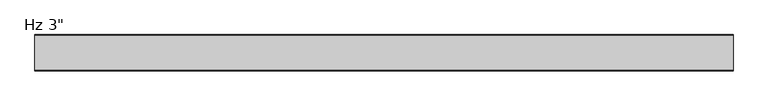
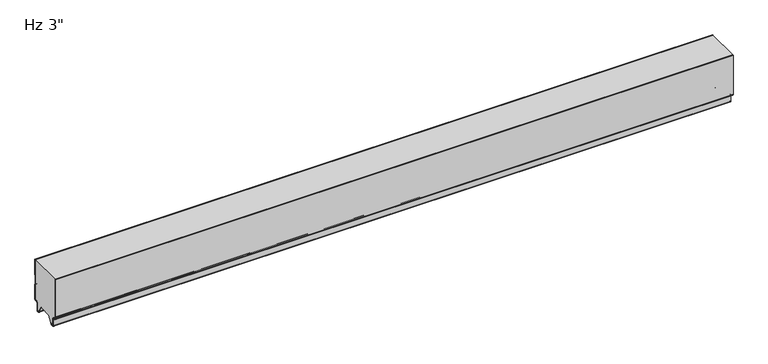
"""IFC4 building model written with IfcOpenShell, lengths in millimetres: plate geometry."""

from ifc_helpers import new_model, si_unit, frame, origin, place, context, project, spatial, polyline, circle_curve, source, transform, mapped, element, save
from ifc_brep_helpers import plane_surface, cylinder_surface, revolved_surface, advanced_brep


def plate_41ea3fa6(model_context):
    return source(origin(), model_context, "Body", "AdvancedBrep", [
        advanced_brep(
        [(-730.0, -1.0, 59.9218553), (-730.0, -1.0, 94.95), (-730.0, 0.0, 94.95), (-730.0, 0.0, 59.479416), (-730.0, -1.1911595, 58.4068912), (-730.0, -1.1911595, 39.5087751), (-730.0, 0.0, 38.4362503), (-730.0, 0.0, 5.8272193), (-730.0, -2.9772904, 2.8499526), (-730.0, -5.2691742, 2.8499526), (-730.0, -8.2464427, -0.1273159), (-730.0, -8.2464427, -15.7237419), (-730.0, -9.8343193, -17.3116185), (-730.0, -12.905868, -17.3116185), (-730.0, -14.4937445, -15.7237419), (-730.0, -14.4937445, -13.3687064), (-730.0, -13.4937445, -13.3687064), (-730.0, -13.4937445, -15.7237419), (-730.0, -12.905868, -16.3116185), (-730.0, -9.8343193, -16.3116185), (-730.0, -9.2464427, -15.7237419), (-730.0, -9.2464427, -0.1273159), (-730.0, -5.2691742, 3.8499526), (-730.0, -2.9772904, 3.8499526), (-730.0, -1.0000218, 5.82722), (-730.0, -1.0, 37.993811), (-730.0, -2.1911595, 39.0663358), (-730.0, -2.1911595, 58.8493305), (730.0, 0.0, 59.479416), (730.0, 0.0, 94.95), (730.0, -1.0, 94.95), (730.0, -1.0, 59.9218553), (730.0, -2.1911595, 58.8493305), (730.0, -2.1911595, 39.0663358), (730.0, -1.0, 37.993811), (730.0, -1.0, 5.82722), (730.0, -2.9772904, 3.8499526), (730.0, -5.2691742, 3.8499526), (730.0, -9.2464427, -0.1273159), (730.0, -9.2464427, -15.7237419), (730.0, -9.8343193, -16.3116185), (730.0, -12.905868, -16.3116185), (730.0, -13.4937445, -15.7237419), (730.0, -13.4937445, -13.3687064), (730.0, -14.4937445, -13.3687064), (730.0, -14.4937445, -15.7237419), (730.0, -12.905868, -17.3116185), (730.0, -9.8343193, -17.3116185), (730.0, -8.2464427, -15.7237419), (730.0, -8.2464427, -0.1273159), (730.0, -5.2691742, 2.8499526), (730.0, -2.9772904, 2.8499526), (730.0, -2.18e-05, 5.8272193), (730.0, 0.0, 38.4362503), (730.0, -1.1911595, 39.5087751), (730.0, -1.1911595, 58.4068912)],
        [
            (0, 1),
            (1, 2),
            (2, 3),
            (3, 4),
            (4, 5),
            (5, 6),
            (6, 7),
            (7, 8, circle_curve(frame((-730.0, -2.9772904, 5.8272211), z_axis=(-1.0, 0.0, 0.0), x_axis=(0.0, 1.0, 0.0)), 2.9772685)),
            (8, 9),
            (9, 10, circle_curve(frame((-730.0, -5.2691742, -0.1273159), z_axis=(1.0, 0.0, 0.0), x_axis=(0.0, 1.0, 0.0)), 2.9772685)),
            (10, 11),
            (11, 12, circle_curve(frame((-730.0, -9.8343193, -15.7237419), z_axis=(-1.0, 0.0, 0.0), x_axis=(0.0, 1.0, 0.0)), 1.5878765)),
            (12, 13),
            (13, 14, circle_curve(frame((-730.0, -12.905868, -15.7237419), z_axis=(-1.0, 0.0, 0.0), x_axis=(0.0, 1.0, 0.0)), 1.5878765)),
            (14, 15),
            (15, 16),
            (16, 17),
            (17, 18, circle_curve(frame((-730.0, -12.905868, -15.7237419), z_axis=(1.0, 0.0, 0.0), x_axis=(0.0, 1.0, 0.0)), 0.5878765)),
            (18, 19),
            (19, 20, circle_curve(frame((-730.0, -9.8343193, -15.7237419), z_axis=(1.0, 0.0, 0.0), x_axis=(0.0, 1.0, 0.0)), 0.5878765)),
            (20, 21),
            (21, 22, circle_curve(frame((-730.0, -5.2691742, -0.1273159), z_axis=(-1.0, 0.0, 0.0), x_axis=(0.0, 1.0, 0.0)), 3.9772685)),
            (22, 23),
            (23, 24, circle_curve(frame((-730.0, -2.9772904, 5.8272212), z_axis=(1.0, 0.0, 0.0), x_axis=(0.0, 1.0, 0.0)), 1.9772685)),
            (24, 25),
            (25, 26),
            (26, 27),
            (27, 0),
            (28, 29),
            (29, 30),
            (30, 31),
            (31, 32),
            (32, 33),
            (33, 34),
            (34, 35),
            (35, 36, circle_curve(frame((730.0, -2.9772904, 5.8272212), z_axis=(-1.0, 0.0, 0.0), x_axis=(0.0, 1.0, 0.0)), 1.9772685)),
            (36, 37),
            (37, 38, circle_curve(frame((730.0, -5.2691742, -0.1273159), z_axis=(1.0, 0.0, 0.0), x_axis=(0.0, 1.0, 0.0)), 3.9772685)),
            (38, 39),
            (39, 40, circle_curve(frame((730.0, -9.8343193, -15.7237419), z_axis=(-1.0, 0.0, 0.0), x_axis=(0.0, 1.0, 0.0)), 0.5878765)),
            (40, 41),
            (41, 42, circle_curve(frame((730.0, -12.905868, -15.7237419), z_axis=(-1.0, 0.0, 0.0), x_axis=(0.0, 1.0, 0.0)), 0.5878765)),
            (42, 43),
            (43, 44),
            (44, 45),
            (45, 46, circle_curve(frame((730.0, -12.905868, -15.7237419), z_axis=(1.0, 0.0, 0.0), x_axis=(0.0, 1.0, 0.0)), 1.5878765)),
            (46, 47),
            (47, 48, circle_curve(frame((730.0, -9.8343193, -15.7237419), z_axis=(1.0, 0.0, 0.0), x_axis=(0.0, 1.0, 0.0)), 1.5878765)),
            (48, 49),
            (49, 50, circle_curve(frame((730.0, -5.2691742, -0.1273159), z_axis=(-1.0, 0.0, 0.0), x_axis=(0.0, 1.0, 0.0)), 2.9772685)),
            (50, 51),
            (51, 52, circle_curve(frame((730.0, -2.9772904, 5.8272211), z_axis=(1.0, 0.0, 0.0), x_axis=(0.0, 1.0, 0.0)), 2.9772685)),
            (52, 53),
            (53, 54),
            (54, 55),
            (55, 28),
            (30, 1),
            (0, 31),
            (27, 32),
            (26, 33),
            (25, 34),
            (24, 35),
            (23, 36),
            (22, 37),
            (21, 38),
            (20, 39),
            (19, 40),
            (18, 41),
            (17, 42),
            (16, 43),
            (15, 44),
            (14, 45),
            (13, 46),
            (12, 47),
            (11, 48),
            (10, 49),
            (9, 50),
            (8, 51),
            (7, 52),
            (6, 53),
            (5, 54),
            (4, 55),
            (3, 28),
            (2, 29),
        ],
        [
            plane_surface(frame((-730.0, 0.0, 576.2625), z_axis=(-1.0, 0.0, 0.0), x_axis=(0.0, 1.0, 0.0))),
            plane_surface(frame((730.0, 0.0, 576.2625), z_axis=(1.0, 0.0, 0.0), x_axis=(0.0, 1.0, 0.0))),
            plane_surface(frame((-730.0, -1.0, 113.6164312), z_axis=(0.0, -1.0, 0.0), x_axis=(1.0, 0.0, 0.0))),
            plane_surface(frame((-730.0, -1.0, 59.9218553), z_axis=(0.0, -0.6691306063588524, 0.7431448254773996), x_axis=(1.0, 0.0, 0.0))),
            plane_surface(frame((-730.0, -2.1911595, 58.8493305), z_axis=(0.0, -1.0, 0.0), x_axis=(1.0, 0.0, 0.0))),
            plane_surface(frame((-730.0, -2.1911595, 39.0663358), z_axis=(0.0, -0.6691306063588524, -0.7431448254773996), x_axis=(1.0, 0.0, 0.0))),
            plane_surface(frame((-730.0, -1.0, 37.993811), z_axis=(0.0, -1.0, 0.0), x_axis=(1.0, 0.0, 0.0))),
            revolved_surface(polyline([(730.0, -1.0000218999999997, 5.8272212), (-730.0, -1.0000218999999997, 5.8272212)]), (-730.0, -2.9772904, 5.8272212), (1.0, 0.0, 0.0)),
            plane_surface(frame((-730.0, -2.9772904, 3.8499526), z_axis=(0.0, 0.0, 1.0), x_axis=(1.0, 0.0, 0.0))),
            cylinder_surface(frame((-730.0, -5.2691742, -0.1273159), z_axis=(-1.0, 0.0, 0.0), x_axis=(0.0, 1.0, 0.0)), 3.9772685),
            plane_surface(frame((-730.0, -9.2464427, -0.1273159), z_axis=(0.0, -1.0, 0.0), x_axis=(1.0, 0.0, 0.0))),
            revolved_surface(polyline([(730.0, -9.2464428, -15.7237419), (-730.0, -9.2464428, -15.7237419)]), (-730.0, -9.8343193, -15.7237419), (1.0, 0.0, 0.0)),
            plane_surface(frame((-730.0, -9.8343193, -16.3116185), z_axis=(0.0, 0.0, 1.0), x_axis=(1.0, 0.0, 0.0))),
            revolved_surface(polyline([(730.0, -12.3179915, -15.7237419), (-730.0, -12.3179915, -15.7237419)]), (-730.0, -12.905868, -15.7237419), (1.0, 0.0, 0.0)),
            plane_surface(frame((-730.0, -13.4937445, -15.7237419), z_axis=(0.0, 1.0, 0.0), x_axis=(1.0, 0.0, 0.0))),
            plane_surface(frame((-730.0, -13.4937445, -13.3687064), z_axis=(0.0, 0.0, 1.0), x_axis=(1.0, 0.0, 0.0))),
            plane_surface(frame((-730.0, -14.4937445, -13.3687064), z_axis=(0.0, -1.0, 0.0), x_axis=(1.0, 0.0, 0.0))),
            cylinder_surface(frame((-730.0, -12.905868, -15.7237419), z_axis=(-1.0, 0.0, 0.0), x_axis=(0.0, 1.0, 0.0)), 1.5878765),
            plane_surface(frame((-730.0, -12.905868, -17.3116185), z_axis=(0.0, 0.0, -1.0), x_axis=(1.0, 0.0, 0.0))),
            cylinder_surface(frame((-730.0, -9.8343193, -15.7237419), z_axis=(-1.0, 0.0, 0.0), x_axis=(0.0, 1.0, 0.0)), 1.5878765),
            plane_surface(frame((-730.0, -8.2464427, -15.7237419), z_axis=(0.0, 1.0, 0.0), x_axis=(1.0, 0.0, 0.0))),
            revolved_surface(polyline([(730.0, -2.2919057, -0.1273159), (-730.0, -2.2919057, -0.1273159)]), (-730.0, -5.2691742, -0.1273159), (1.0, 0.0, 0.0)),
            plane_surface(frame((-730.0, -5.2691742, 2.8499526), z_axis=(0.0, 0.0, -1.0), x_axis=(1.0, 0.0, 0.0))),
            cylinder_surface(frame((-730.0, -2.9772904, 5.8272211), z_axis=(-1.0, 0.0, 0.0), x_axis=(0.0, 1.0, 0.0)), 2.9772685),
            plane_surface(frame((-730.0, 0.0, 5.8272193), z_axis=(0.0, 1.0, 0.0), x_axis=(1.0, 0.0, 0.0))),
            plane_surface(frame((-730.0, 0.0, 38.4362503), z_axis=(0.0, 0.6691306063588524, 0.7431448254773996), x_axis=(1.0, 0.0, 0.0))),
            plane_surface(frame((-730.0, -1.1911595, 39.5087751), z_axis=(0.0, 1.0, 0.0), x_axis=(1.0, 0.0, 0.0))),
            plane_surface(frame((-730.0, -1.1911595, 58.4068912), z_axis=(0.0, 0.6691306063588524, -0.7431448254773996), x_axis=(1.0, 0.0, 0.0))),
            plane_surface(frame((-730.0, 0.0, 59.479416), z_axis=(0.0, 1.0, 0.0), x_axis=(1.0, 0.0, 0.0))),
            plane_surface(frame((730.0, 10.0, 94.95), z_axis=(0.0, 0.0, 1.0), x_axis=(-1.0, 0.0, 0.0))),
        ],
        [
            (0, [[1, 2, 3, 4, 5, 6, 7, 8, 9, 10, 11, 12, 13, 14, 15, 16, 17, 18, 19, 20, 21, 22, 23, 24, 25, 26, 27, 28]]),
            (1, [[29, 30, 31, 32, 33, 34, 35, 36, 37, 38, 39, 40, 41, 42, 43, 44, 45, 46, 47, 48, 49, 50, 51, 52, 53, 54, 55, 56]]),
            (2, [[-31, 57, -1, 58]]),
            (3, [[59, -32, -58, -28]]),
            (4, [[60, -33, -59, -27]]),
            (5, [[61, -34, -60, -26]]),
            (6, [[62, -35, -61, -25]]),
            (7, [[63, -36, -62, -24]]),
            (8, [[64, -37, -63, -23]]),
            (9, [[65, -38, -64, -22]]),
            (10, [[66, -39, -65, -21]]),
            (11, [[67, -40, -66, -20]]),
            (12, [[68, -41, -67, -19]]),
            (13, [[69, -42, -68, -18]]),
            (14, [[70, -43, -69, -17]]),
            (15, [[71, -44, -70, -16]]),
            (16, [[72, -45, -71, -15]]),
            (17, [[73, -46, -72, -14]]),
            (18, [[74, -47, -73, -13]]),
            (19, [[75, -48, -74, -12]]),
            (20, [[76, -49, -75, -11]]),
            (21, [[77, -50, -76, -10]]),
            (22, [[78, -51, -77, -9]]),
            (23, [[79, -52, -78, -8]]),
            (24, [[80, -53, -79, -7]]),
            (25, [[81, -54, -80, -6]]),
            (26, [[82, -55, -81, -5]]),
            (27, [[83, -56, -82, -4]]),
            (28, [[-3, 84, -29, -83]]),
            (29, [[-57, -30, -84, -2]]),
        ],
    ),
        advanced_brep(
        [(-730.0, -73.2223811, 3.8501063), (-730.0, -70.9308685, 3.8501063), (-730.0, -66.9535232, -0.1272391), (-730.0, -66.9535232, -15.7237514), (-730.0, -66.365666, -16.3116086), (-730.0, -63.2941346, -16.3116086), (-730.0, -62.7062635, -15.7237374), (-730.0, -62.7062635, -13.3687064), (-730.0, -61.7062599, -13.3687064), (-730.0, -61.7062599, -15.7237419), (-730.0, -63.2941364, -17.3116185), (-730.0, -66.3656851, -17.3116185), (-730.0, -67.9535616, -15.7237419), (-730.0, -67.9535616, -0.1273159), (-730.0, -70.9308302, 2.8499526), (-730.0, -73.222714, 2.8499526), (-730.0, -76.1999825, 5.8272211), (-730.0, -76.2, 94.95), (-730.0, -75.1992912, 94.95), (-730.0, -75.1992912, 5.8270163), (730.0, -73.2223811, 3.8501063), (730.0, -75.1992912, 5.8270163), (730.0, -75.1992912, 94.95), (730.0, -76.2, 94.95), (730.0, -76.2, 5.8272211), (730.0, -73.222714, 2.8499526), (730.0, -70.9308302, 2.8499526), (730.0, -67.9535616, -0.1273159), (730.0, -67.9535616, -15.7237419), (730.0, -66.3656851, -17.3116185), (730.0, -63.2941364, -17.3116185), (730.0, -61.7062599, -15.7237419), (730.0, -61.7062599, -13.3687064), (730.0, -62.7062635, -13.3687064), (730.0, -62.7062635, -15.7237374), (730.0, -63.2941346, -16.3116086), (730.0, -66.365666, -16.3116086), (730.0, -66.9535232, -15.7237514), (730.0, -66.9535232, -0.1272391), (730.0, -70.9308685, 3.8501063)],
        [
            (0, 1),
            (1, 2, circle_curve(frame((-730.0, -70.9308685, -0.1272391), z_axis=(-1.0, 0.0, 0.0), x_axis=(0.0, 0.0, -1.0)), 3.9773454)),
            (2, 3),
            (3, 4, circle_curve(frame((-730.0, -66.365666, -15.7237514), z_axis=(1.0, 0.0, 0.0), x_axis=(0.0, 0.0, -1.0)), 0.5878572)),
            (4, 5),
            (5, 6, circle_curve(frame((-730.0, -63.2941346, -15.7237374), z_axis=(1.0, 0.0, 0.0), x_axis=(0.0, 0.0, -1.0)), 0.5878711)),
            (6, 7),
            (7, 8),
            (8, 9),
            (9, 10, circle_curve(frame((-730.0, -63.2941364, -15.7237419), z_axis=(-1.0, 0.0, 0.0), x_axis=(0.0, 0.0, -1.0)), 1.5878765)),
            (10, 11),
            (11, 12, circle_curve(frame((-730.0, -66.3656851, -15.7237419), z_axis=(-1.0, 0.0, 0.0), x_axis=(0.0, 0.0, -1.0)), 1.5878765)),
            (12, 13),
            (13, 14, circle_curve(frame((-730.0, -70.9308302, -0.1273159), z_axis=(1.0, 0.0, 0.0), x_axis=(0.0, 0.0, -1.0)), 2.9772685)),
            (14, 15),
            (15, 16, circle_curve(frame((-730.0, -73.222714, 5.8272211), z_axis=(-1.0, 0.0, 0.0), x_axis=(0.0, 0.0, -1.0)), 2.9772685)),
            (16, 17),
            (17, 18),
            (18, 19),
            (19, 0, circle_curve(frame((-730.0, -73.2223811, 5.8270163), z_axis=(1.0, 0.0, 0.0), x_axis=(0.0, 0.0, -1.0)), 1.9769101)),
            (20, 21, circle_curve(frame((730.0, -73.2223811, 5.8270163), z_axis=(-1.0, 0.0, 0.0), x_axis=(0.0, 0.0, -1.0)), 1.9769101)),
            (21, 22),
            (22, 23),
            (23, 24),
            (24, 25, circle_curve(frame((730.0, -73.222714, 5.8272211), z_axis=(1.0, 0.0, 0.0), x_axis=(0.0, 0.0, -1.0)), 2.9772685)),
            (25, 26),
            (26, 27, circle_curve(frame((730.0, -70.9308302, -0.1273159), z_axis=(-1.0, 0.0, 0.0), x_axis=(0.0, 0.0, -1.0)), 2.9772685)),
            (27, 28),
            (28, 29, circle_curve(frame((730.0, -66.3656851, -15.7237419), z_axis=(1.0, 0.0, 0.0), x_axis=(0.0, 0.0, -1.0)), 1.5878765)),
            (29, 30),
            (30, 31, circle_curve(frame((730.0, -63.2941364, -15.7237419), z_axis=(1.0, 0.0, 0.0), x_axis=(0.0, 0.0, -1.0)), 1.5878765)),
            (31, 32),
            (32, 33),
            (33, 34),
            (34, 35, circle_curve(frame((730.0, -63.2941346, -15.7237374), z_axis=(-1.0, 0.0, 0.0), x_axis=(0.0, 0.0, -1.0)), 0.5878711)),
            (35, 36),
            (36, 37, circle_curve(frame((730.0, -66.365666, -15.7237514), z_axis=(-1.0, 0.0, 0.0), x_axis=(0.0, 0.0, -1.0)), 0.5878572)),
            (37, 38),
            (38, 39, circle_curve(frame((730.0, -70.9308685, -0.1272391), z_axis=(1.0, 0.0, 0.0), x_axis=(0.0, 0.0, -1.0)), 3.9773454)),
            (39, 20),
            (17, 23),
            (22, 18),
            (19, 21),
            (20, 0),
            (16, 24),
            (15, 25),
            (14, 26),
            (13, 27),
            (12, 28),
            (11, 29),
            (10, 30),
            (9, 31),
            (8, 32),
            (7, 33),
            (6, 34),
            (5, 35),
            (4, 36),
            (3, 37),
            (2, 38),
            (1, 39),
        ],
        [
            plane_surface(frame((-730.0, -76.2, 576.2625), z_axis=(-1.0, 0.0, 0.0), x_axis=(0.0, -1.0, 0.0))),
            plane_surface(frame((730.0, -76.2, 576.2625), z_axis=(1.0, 0.0, 0.0), x_axis=(0.0, -1.0, 0.0))),
            plane_surface(frame((730.0, 10.0, 94.95), z_axis=(0.0, 0.0, 1.0), x_axis=(-1.0, 0.0, 0.0))),
            revolved_surface(polyline([(730.0, -73.2223811, 3.8501062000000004), (-730.0, -73.2223811, 3.8501062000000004)]), (-730.0, -73.2223811, 5.8270163), (1.0, 0.0, 0.0)),
            plane_surface(frame((-730.0, -75.1992912, 5.8270163), z_axis=(0.0, 1.0, 0.0), x_axis=(1.0, 0.0, 0.0))),
            plane_surface(frame((-730.0, -76.2, 1150.8100652), z_axis=(0.0, -1.0, 0.0), x_axis=(1.0, 0.0, 0.0))),
            cylinder_surface(frame((-730.0, -73.222714, 5.8272211), z_axis=(-1.0, 0.0, 0.0), x_axis=(0.0, 0.0, -1.0)), 2.9772685),
            plane_surface(frame((-730.0, -73.222714, 2.8499526), z_axis=(0.0, 0.0, -1.0), x_axis=(1.0, 0.0, 0.0))),
            revolved_surface(polyline([(730.0, -70.9308302, -3.1045844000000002), (-730.0, -70.9308302, -3.1045844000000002)]), (-730.0, -70.9308302, -0.1273159), (1.0, 0.0, 0.0)),
            plane_surface(frame((-730.0, -67.9535616, -0.1273159), z_axis=(0.0, -1.0, 0.0), x_axis=(1.0, 0.0, 0.0))),
            cylinder_surface(frame((-730.0, -66.3656851, -15.7237419), z_axis=(-1.0, 0.0, 0.0), x_axis=(0.0, 0.0, -1.0)), 1.5878765),
            plane_surface(frame((-730.0, -66.3656851, -17.3116185), z_axis=(0.0, 0.0, -1.0), x_axis=(1.0, 0.0, 0.0))),
            cylinder_surface(frame((-730.0, -63.2941364, -15.7237419), z_axis=(-1.0, 0.0, 0.0), x_axis=(0.0, 0.0, -1.0)), 1.5878765),
            plane_surface(frame((-730.0, -61.7062599, -15.7237419), z_axis=(0.0, 1.0, 0.0), x_axis=(1.0, 0.0, 0.0))),
            plane_surface(frame((-730.0, -61.7062599, -13.3687064), z_axis=(0.0, 0.0, 1.0), x_axis=(1.0, 0.0, 0.0))),
            plane_surface(frame((-730.0, -62.7062635, -13.3687064), z_axis=(0.0, -1.0, 0.0), x_axis=(1.0, 0.0, 0.0))),
            revolved_surface(polyline([(730.0, -63.2941346, -16.3116085), (-730.0, -63.2941346, -16.3116085)]), (-730.0, -63.2941346, -15.7237374), (1.0, 0.0, 0.0)),
            plane_surface(frame((-730.0, -63.2941346, -16.3116086), z_axis=(0.0, 0.0, 1.0), x_axis=(1.0, 0.0, 0.0))),
            revolved_surface(polyline([(730.0, -66.365666, -16.3116086), (-730.0, -66.365666, -16.3116086)]), (-730.0, -66.365666, -15.7237514), (1.0, 0.0, 0.0)),
            plane_surface(frame((-730.0, -66.9535232, -15.7237514), z_axis=(0.0, 1.0, 0.0), x_axis=(1.0, 0.0, 0.0))),
            cylinder_surface(frame((-730.0, -70.9308685, -0.1272391), z_axis=(-1.0, 0.0, 0.0), x_axis=(0.0, 0.0, -1.0)), 3.9773454),
            plane_surface(frame((-730.0, -70.9308685, 3.8501063), z_axis=(0.0, 0.0, 1.0), x_axis=(1.0, 0.0, 0.0))),
        ],
        [
            (0, [[1, 2, 3, 4, 5, 6, 7, 8, 9, 10, 11, 12, 13, 14, 15, 16, 17, 18, 19, 20]]),
            (1, [[21, 22, 23, 24, 25, 26, 27, 28, 29, 30, 31, 32, 33, 34, 35, 36, 37, 38, 39, 40]]),
            (2, [[41, -23, 42, -18]]),
            (3, [[43, -21, 44, -20]]),
            (4, [[-19, -42, -22, -43]]),
            (5, [[-24, -41, -17, 45]]),
            (6, [[46, -25, -45, -16]]),
            (7, [[47, -26, -46, -15]]),
            (8, [[48, -27, -47, -14]]),
            (9, [[49, -28, -48, -13]]),
            (10, [[50, -29, -49, -12]]),
            (11, [[51, -30, -50, -11]]),
            (12, [[52, -31, -51, -10]]),
            (13, [[53, -32, -52, -9]]),
            (14, [[54, -33, -53, -8]]),
            (15, [[55, -34, -54, -7]]),
            (16, [[56, -35, -55, -6]]),
            (17, [[57, -36, -56, -5]]),
            (18, [[58, -37, -57, -4]]),
            (19, [[59, -38, -58, -3]]),
            (20, [[60, -39, -59, -2]]),
            (21, [[-44, -40, -60, -1]]),
        ],
    ),
        advanced_brep(
        [(-730.0, -73.2227194, 3.8499499), (-730.0, -75.1999935, 5.8272239), (-730.0, -75.2, 94.95), (-730.0, -1.0, 94.95), (-730.0, -1.0, 59.9218553), (-730.0, -2.1911595, 58.8493305), (-730.0, -2.1911595, 39.0663358), (-730.0, -1.0000109, 37.993811), (-730.0, -1.0000109, 5.8272239), (-730.0, -2.9772849, 3.8499499), (-730.0, -5.2691749, 3.8499499), (-730.0, -9.246442, -0.1273173), (-730.0, -9.246442, -15.7237417), (-730.0, -9.8343189, -16.3116186), (-730.0, -12.9058679, -16.3116186), (-730.0, -13.4937446, -15.723742), (-730.0, -13.4937446, -13.3687064), (-730.0, -14.4937446, -13.3687064), (-730.0, -14.4937446, -15.6582851), (-730.0, -23.7509179, 0.0), (-730.0, -52.4490865, 0.0), (-730.0, -61.7062598, -15.6582851), (-730.0, -61.7062598, -13.3687064), (-730.0, -62.7062598, -13.3687064), (-730.0, -62.7062598, -15.723742), (-730.0, -63.2941365, -16.3116186), (-730.0, -66.3656854, -16.3116186), (-730.0, -66.9535623, -15.7237417), (-730.0, -66.9535623, -0.1273173), (-730.0, -70.9308295, 3.8499499), (730.0, -73.2227194, 3.8499499), (730.0, -70.9308295, 3.8499499), (730.0, -66.9535623, -0.1273173), (730.0, -66.9535623, -15.7237417), (730.0, -66.3656854, -16.3116186), (730.0, -63.2941365, -16.3116186), (730.0, -62.7062598, -15.723742), (730.0, -62.7062598, -13.3687064), (730.0, -61.7062598, -13.3687064), (730.0, -61.7062598, -15.6582851), (730.0, -52.4490865, 0.0), (730.0, -23.7509179, 0.0), (730.0, -14.4937446, -15.6582851), (730.0, -14.4937446, -13.3687064), (730.0, -13.4937446, -13.3687064), (730.0, -13.4937446, -15.723742), (730.0, -12.9058679, -16.3116186), (730.0, -9.8343189, -16.3116186), (730.0, -9.246442, -15.7237417), (730.0, -9.246442, -0.1273173), (730.0, -5.2691749, 3.8499499), (730.0, -2.9772849, 3.8499499), (730.0, -1.0000109, 5.8272239), (730.0, -1.0000109, 37.993811), (730.0, -2.1911595, 39.0663358), (730.0, -2.1911595, 58.8493305), (730.0, -1.0, 59.9218553), (730.0, -1.0, 94.95), (730.0, -75.2, 94.95), (730.0, -75.2, 5.8272239)],
        [
            (0, 1, circle_curve(frame((-730.0, -73.2227194, 5.8272239), z_axis=(-1.0, 0.0, 0.0), x_axis=(0.0, 0.0, -1.0)), 1.977274)),
            (1, 2),
            (2, 3),
            (3, 4),
            (4, 5),
            (5, 6),
            (6, 7),
            (7, 8),
            (8, 9, circle_curve(frame((-730.0, -2.9772849, 5.8272239), z_axis=(-1.0, 0.0, 0.0), x_axis=(0.0, 1.0, 0.0)), 1.977274)),
            (9, 10),
            (10, 11, circle_curve(frame((-730.0, -5.2691749, -0.1273173), z_axis=(1.0, 0.0, 0.0), x_axis=(0.0, 1.0, 0.0)), 3.9772671)),
            (11, 12),
            (12, 13, circle_curve(frame((-730.0, -9.8343189, -15.7237417), z_axis=(-1.0, 0.0, 0.0), x_axis=(0.0, 1.0, 0.0)), 0.5878769)),
            (13, 14),
            (14, 15, circle_curve(frame((-730.0, -12.9058679, -15.723742), z_axis=(-1.0, 0.0, 0.0), x_axis=(0.0, 1.0, 0.0)), 0.5878766)),
            (15, 16),
            (16, 17),
            (17, 18),
            (18, 19),
            (19, 20),
            (20, 21),
            (21, 22),
            (22, 23),
            (23, 24),
            (24, 25, circle_curve(frame((-730.0, -63.2941365, -15.723742), z_axis=(-1.0, 0.0, 0.0), x_axis=(0.0, 0.0, -1.0)), 0.5878766)),
            (25, 26),
            (26, 27, circle_curve(frame((-730.0, -66.3656854, -15.7237417), z_axis=(-1.0, 0.0, 0.0), x_axis=(0.0, 0.0, -1.0)), 0.5878769)),
            (27, 28),
            (28, 29, circle_curve(frame((-730.0, -70.9308295, -0.1273173), z_axis=(1.0, 0.0, 0.0), x_axis=(0.0, 0.0, -1.0)), 3.9772671)),
            (29, 0),
            (30, 31),
            (31, 32, circle_curve(frame((730.0, -70.9308295, -0.1273173), z_axis=(-1.0, 0.0, 0.0), x_axis=(0.0, 0.0, -1.0)), 3.9772671)),
            (32, 33),
            (33, 34, circle_curve(frame((730.0, -66.3656854, -15.7237417), z_axis=(1.0, 0.0, 0.0), x_axis=(0.0, 0.0, -1.0)), 0.5878769)),
            (34, 35),
            (35, 36, circle_curve(frame((730.0, -63.2941365, -15.723742), z_axis=(1.0, 0.0, 0.0), x_axis=(0.0, 0.0, -1.0)), 0.5878766)),
            (36, 37),
            (37, 38),
            (38, 39),
            (39, 40),
            (40, 41),
            (41, 42),
            (42, 43),
            (43, 44),
            (44, 45),
            (45, 46, circle_curve(frame((730.0, -12.9058679, -15.723742), z_axis=(1.0, 0.0, 0.0), x_axis=(0.0, 1.0, 0.0)), 0.5878766)),
            (46, 47),
            (47, 48, circle_curve(frame((730.0, -9.8343189, -15.7237417), z_axis=(1.0, 0.0, 0.0), x_axis=(0.0, 1.0, 0.0)), 0.5878769)),
            (48, 49),
            (49, 50, circle_curve(frame((730.0, -5.2691749, -0.1273173), z_axis=(-1.0, 0.0, 0.0), x_axis=(0.0, 1.0, 0.0)), 3.9772671)),
            (50, 51),
            (51, 52, circle_curve(frame((730.0, -2.9772849, 5.8272239), z_axis=(1.0, 0.0, 0.0), x_axis=(0.0, 1.0, 0.0)), 1.977274)),
            (52, 53),
            (53, 54),
            (54, 55),
            (55, 56),
            (56, 57),
            (57, 58),
            (58, 59),
            (59, 30, circle_curve(frame((730.0, -73.2227194, 5.8272239), z_axis=(1.0, 0.0, 0.0), x_axis=(0.0, 0.0, -1.0)), 1.977274)),
            (18, 42),
            (41, 19),
            (17, 43),
            (16, 44),
            (15, 45),
            (14, 46),
            (13, 47),
            (12, 48),
            (11, 49),
            (10, 50),
            (9, 51),
            (8, 52),
            (7, 53),
            (6, 54),
            (5, 55),
            (4, 56),
            (3, 57),
            (40, 20),
            (2, 58),
            (29, 31),
            (30, 0),
            (28, 32),
            (27, 33),
            (26, 34),
            (25, 35),
            (24, 36),
            (23, 37),
            (22, 38),
            (21, 39),
            (1, 59),
        ],
        [
            plane_surface(frame((-730.0, -75.2, 576.2625), z_axis=(-1.0, 0.0, 0.0), x_axis=(0.0, -1.0, 0.0))),
            plane_surface(frame((730.0, -75.2, 576.2625), z_axis=(1.0, 0.0, 0.0), x_axis=(0.0, -1.0, 0.0))),
            plane_surface(frame((-730.0, -23.7509179, 0.0), z_axis=(0.0, -0.8608169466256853, -0.5089147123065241), x_axis=(1.0, 0.0, 0.0))),
            plane_surface(frame((-730.0, -14.4937446, -15.6582851), z_axis=(0.0, 1.0, 0.0), x_axis=(1.0, 0.0, 0.0))),
            plane_surface(frame((-730.0, -14.4937446, -13.3687064), z_axis=(0.0, 0.0, -1.0), x_axis=(1.0, 0.0, 0.0))),
            plane_surface(frame((-730.0, -13.4937446, -13.3687064), z_axis=(0.0, -1.0, 0.0), x_axis=(1.0, 0.0, 0.0))),
            cylinder_surface(frame((-730.0, -12.9058679, -15.723742), z_axis=(-1.0, 0.0, 0.0), x_axis=(0.0, 1.0, 0.0)), 0.5878766),
            plane_surface(frame((-730.0, -12.9058679, -16.3116186), z_axis=(0.0, 0.0, -1.0), x_axis=(1.0, 0.0, 0.0))),
            cylinder_surface(frame((-730.0, -9.8343189, -15.7237417), z_axis=(-1.0, 0.0, 0.0), x_axis=(0.0, 1.0, 0.0)), 0.5878769),
            plane_surface(frame((-730.0, -9.246442, -15.7237417), z_axis=(0.0, 1.0, 0.0), x_axis=(1.0, 0.0, 0.0))),
            revolved_surface(polyline([(730.0, -1.2919078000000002, -0.1273173), (-730.0, -1.2919078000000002, -0.1273173)]), (-730.0, -5.2691749, -0.1273173), (1.0, 0.0, 0.0)),
            plane_surface(frame((-730.0, -5.2691749, 3.8499499), z_axis=(0.0, 0.0, -1.0), x_axis=(1.0, 0.0, 0.0))),
            cylinder_surface(frame((-730.0, -2.9772849, 5.8272239), z_axis=(-1.0, 0.0, 0.0), x_axis=(0.0, 1.0, 0.0)), 1.977274),
            plane_surface(frame((-730.0, -1.0000109, 5.8272239), z_axis=(0.0, 1.0, 0.0), x_axis=(1.0, 0.0, 0.0))),
            plane_surface(frame((-730.0, -1.0000109, 37.993811), z_axis=(0.0, 0.6691339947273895, 0.7431417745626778), x_axis=(1.0, 0.0, 0.0))),
            plane_surface(frame((-730.0, -2.1911595, 39.0663358), z_axis=(0.0, 1.0, 0.0), x_axis=(1.0, 0.0, 0.0))),
            plane_surface(frame((-730.0, -2.1911595, 58.8493305), z_axis=(0.0, 0.6691306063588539, -0.7431448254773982), x_axis=(1.0, 0.0, 0.0))),
            plane_surface(frame((-730.0, -1.0, 59.9218553), z_axis=(0.0, 1.0, 0.0), x_axis=(1.0, 0.0, 0.0))),
            plane_surface(frame((-730.0, -52.4490865, 0.0), z_axis=(0.0, 0.0, -1.0), x_axis=(1.0, 0.0, 0.0))),
            plane_surface(frame((730.0, 10.0, 94.95), z_axis=(0.0, 0.0, 1.0), x_axis=(-1.0, 0.0, 0.0))),
            plane_surface(frame((-730.0, -73.2227194, 3.8499499), z_axis=(0.0, 0.0, -1.0), x_axis=(1.0, 0.0, 0.0))),
            revolved_surface(polyline([(730.0, -70.9308295, -4.1045844), (-730.0, -70.9308295, -4.1045844)]), (-730.0, -70.9308295, -0.1273173), (1.0, 0.0, 0.0)),
            plane_surface(frame((-730.0, -66.9535623, -0.1273173), z_axis=(0.0, -1.0, 0.0), x_axis=(1.0, 0.0, 0.0))),
            cylinder_surface(frame((-730.0, -66.3656854, -15.7237417), z_axis=(-1.0, 0.0, 0.0), x_axis=(0.0, 0.0, -1.0)), 0.5878769),
            plane_surface(frame((-730.0, -66.3656854, -16.3116186), z_axis=(0.0, 0.0, -1.0), x_axis=(1.0, 0.0, 0.0))),
            cylinder_surface(frame((-730.0, -63.2941365, -15.723742), z_axis=(-1.0, 0.0, 0.0), x_axis=(0.0, 0.0, -1.0)), 0.5878766),
            plane_surface(frame((-730.0, -62.7062598, -15.723742), z_axis=(0.0, 1.0, 0.0), x_axis=(1.0, 0.0, 0.0))),
            plane_surface(frame((-730.0, -62.7062598, -13.3687064), z_axis=(0.0, 0.0, -1.0), x_axis=(1.0, 0.0, 0.0))),
            plane_surface(frame((-730.0, -61.7062598, -13.3687064), z_axis=(0.0, -1.0, 0.0), x_axis=(1.0, 0.0, 0.0))),
            plane_surface(frame((-730.0, -61.7062598, -15.6582851), z_axis=(0.0, 0.8608169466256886, -0.5089147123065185), x_axis=(1.0, 0.0, 0.0))),
            plane_surface(frame((-730.0, -75.2, 1150.8100652), z_axis=(0.0, -1.0, 0.0), x_axis=(1.0, 0.0, 0.0))),
            cylinder_surface(frame((-730.0, -73.2227194, 5.8272239), z_axis=(-1.0, 0.0, 0.0), x_axis=(0.0, 0.0, -1.0)), 1.977274),
        ],
        [
            (0, [[1, 2, 3, 4, 5, 6, 7, 8, 9, 10, 11, 12, 13, 14, 15, 16, 17, 18, 19, 20, 21, 22, 23, 24, 25, 26, 27, 28, 29, 30]]),
            (1, [[31, 32, 33, 34, 35, 36, 37, 38, 39, 40, 41, 42, 43, 44, 45, 46, 47, 48, 49, 50, 51, 52, 53, 54, 55, 56, 57, 58, 59, 60]]),
            (2, [[61, -42, 62, -19]]),
            (3, [[63, -43, -61, -18]]),
            (4, [[64, -44, -63, -17]]),
            (5, [[65, -45, -64, -16]]),
            (6, [[66, -46, -65, -15]]),
            (7, [[67, -47, -66, -14]]),
            (8, [[68, -48, -67, -13]]),
            (9, [[69, -49, -68, -12]]),
            (10, [[70, -50, -69, -11]]),
            (11, [[71, -51, -70, -10]]),
            (12, [[72, -52, -71, -9]]),
            (13, [[73, -53, -72, -8]]),
            (14, [[74, -54, -73, -7]]),
            (15, [[75, -55, -74, -6]]),
            (16, [[76, -56, -75, -5]]),
            (17, [[-4, 77, -57, -76]]),
            (18, [[78, -20, -62, -41]]),
            (19, [[79, -58, -77, -3]]),
            (20, [[80, -31, 81, -30]]),
            (21, [[82, -32, -80, -29]]),
            (22, [[83, -33, -82, -28]]),
            (23, [[84, -34, -83, -27]]),
            (24, [[85, -35, -84, -26]]),
            (25, [[86, -36, -85, -25]]),
            (26, [[87, -37, -86, -24]]),
            (27, [[88, -38, -87, -23]]),
            (28, [[89, -39, -88, -22]]),
            (29, [[-78, -40, -89, -21]]),
            (30, [[-59, -79, -2, 90]]),
            (31, [[-81, -60, -90, -1]]),
        ],
    ),
    ])


if __name__ == "__main__":
    model = new_model("IFC4")
    model_context = context("Model", 3, world=origin())
    ifc_project = project(units=[si_unit("LENGTHUNIT", "METRE", prefix="MILLI")], contexts=[model_context])
    site = spatial("IfcSite", under=ifc_project)
    building = spatial("IfcBuilding", under=site)
    placement = place(None, origin())
    plate_shape = plate_41ea3fa6(model_context)
    element("IfcPlate", 1, ObjectType="KIP-SLI-FLI-R19-CP-Hz-FL_SL : Hz 3\"", at=placement, inside=building, context=model_context, shape_type="MappedRepresentation", body=[
        mapped(plate_shape, transform((0.0, 0.0, 0.0), x_axis=(1.0, 0.0, 0.0), y_axis=(0.0, 1.0, 0.0), z_axis=(0.0, 0.0, 1.0))),
    ])
    save(model, "model.ifc")
